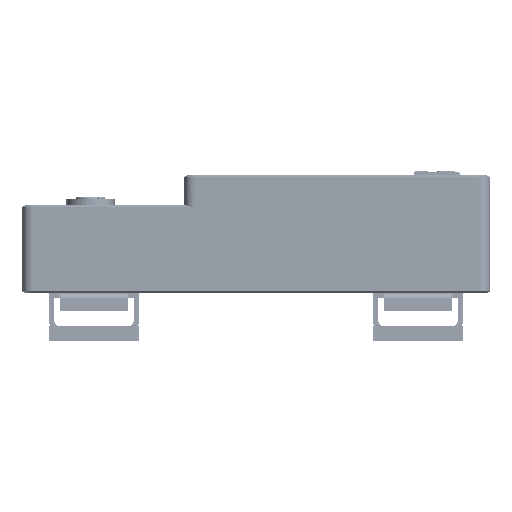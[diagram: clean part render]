
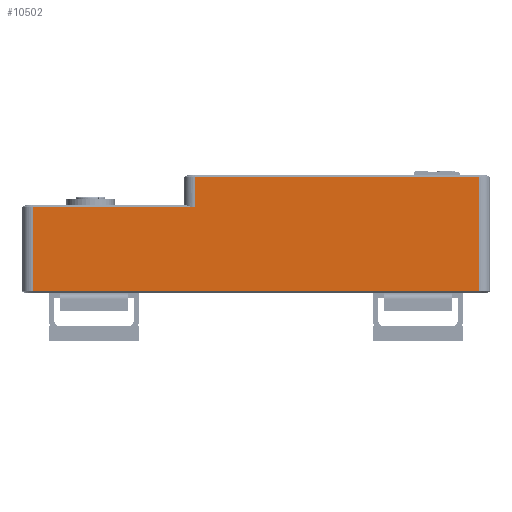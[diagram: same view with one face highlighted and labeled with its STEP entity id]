
A CAD part, front view. The second image highlights one B-rep face of the part: STEP entity #10502.
In plain terms, the highlighted planar face has unit normal (0, -1, 0).
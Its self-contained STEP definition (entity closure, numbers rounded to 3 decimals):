
#380=DIRECTION('',(1.,0.,0.));
#381=VECTOR('',#380,123.95);
#382=CARTESIAN_POINT('',(-57.,-33.5,
-31.7));
#383=LINE('',#382,#381);
#394=DIRECTION('',(1.,0.,0.));
#395=VECTOR('',#394,45.);
#396=CARTESIAN_POINT('',(-57.,-33.5,
-8.3));
#397=LINE('',#396,#395);
#408=DIRECTION('',(-1.,0.,0.));
#409=VECTOR('',#408,78.95);
#410=CARTESIAN_POINT('',(66.95,-33.5,
0.));
#411=LINE('',#410,#409);
#531=DIRECTION('',(0.,0.,1.));
#532=VECTOR('',#531,31.7);
#533=CARTESIAN_POINT('',(66.95,-33.5,-31.7));
#534=LINE('',#533,#532);
#3247=DIRECTION('',(0.,0.,-1.));
#3248=VECTOR('',#3247,23.4);
#3249=CARTESIAN_POINT('',(-57.,-33.5,
-8.3));
#3250=LINE('',#3249,#3248);
#3413=DIRECTION('',(0.,0.,-1.));
#3414=VECTOR('',#3413,8.3);
#3415=CARTESIAN_POINT('',(-12.,-33.5,
0.));
#3416=LINE('',#3415,#3414);
#9015=CARTESIAN_POINT('',(-57.,-33.5,
-31.7));
#9016=CARTESIAN_POINT('',(66.95,-33.5,
-31.7));
#9017=VERTEX_POINT('',#9015);
#9018=VERTEX_POINT('',#9016);
#9019=CARTESIAN_POINT('',(66.95,-33.5,
0.));
#9020=CARTESIAN_POINT('',(-12.,-33.5,
0.));
#9021=VERTEX_POINT('',#9019);
#9022=VERTEX_POINT('',#9020);
#9023=CARTESIAN_POINT('',(-57.,-33.5,
-8.3));
#9024=VERTEX_POINT('',#9023);
#9025=CARTESIAN_POINT('',(-12.,-33.5,
-8.3));
#9026=VERTEX_POINT('',#9025);
#10484=CARTESIAN_POINT('',(123.7,-33.5,-1.8));
#10485=DIRECTION('',(0.,1.,0.));
#10486=DIRECTION('',(0.,0.,-1.));
#10487=AXIS2_PLACEMENT_3D('',#10484,#10485,#10486);
#10488=PLANE('',#10487);
#10490=ORIENTED_EDGE('',*,*,#10489,.F.);
#10492=ORIENTED_EDGE('',*,*,#10491,.F.);
#10493=ORIENTED_EDGE('',*,*,#10474,.F.);
#10495=ORIENTED_EDGE('',*,*,#10494,.F.);
#10497=ORIENTED_EDGE('',*,*,#10496,.T.);
#10499=ORIENTED_EDGE('',*,*,#10498,.F.);
#10500=EDGE_LOOP('',(#10490,#10492,#10493,#10495,#10497,#10499));
#10501=FACE_OUTER_BOUND('',#10500,.F.);
#10474=EDGE_CURVE('',#9017,#9018,#383,.T.);
#10489=EDGE_CURVE('',#9021,#9022,#411,.T.);
#10491=EDGE_CURVE('',#9018,#9021,#534,.T.);
#10494=EDGE_CURVE('',#9024,#9017,#3250,.T.);
#10496=EDGE_CURVE('',#9024,#9026,#397,.T.);
#10498=EDGE_CURVE('',#9022,#9026,#3416,.T.);
#10502=ADVANCED_FACE('',(#10501),#10488,.F.);
